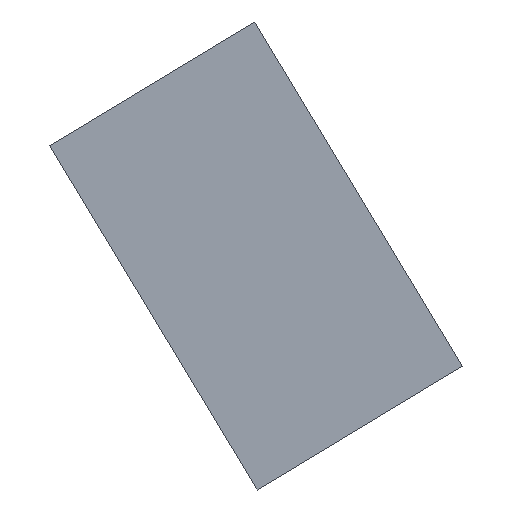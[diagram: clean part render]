
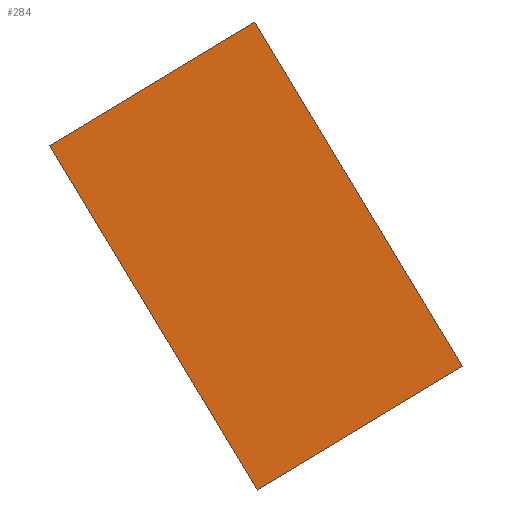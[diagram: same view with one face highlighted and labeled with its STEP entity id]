
A CAD part, left-side view. The second image highlights one B-rep face of the part: STEP entity #284.
In plain terms, the highlighted planar face has unit normal (-1, 0, 0).
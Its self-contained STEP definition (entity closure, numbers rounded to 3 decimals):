
#21 = EDGE_CURVE('',#22,#24,#26,.T.);
#22 = VERTEX_POINT('',#23);
#23 = CARTESIAN_POINT('',(160.,-704.646,1762.911));
#24 = VERTEX_POINT('',#25);
#25 = CARTESIAN_POINT('',(160.,-739.276,1705.554));
#26 = SURFACE_CURVE('',#27,(#31,#43),.PCURVE_S1.);
#27 = LINE('',#28,#29);
#28 = CARTESIAN_POINT('',(160.,-704.646,1762.911));
#29 = VECTOR('',#30,1.);
#30 = DIRECTION('',(0.,-0.517,-0.856));
#31 = PCURVE('',#32,#37);
#32 = PLANE('',#33);
#33 = AXIS2_PLACEMENT_3D('',#34,#35,#36);
#34 = CARTESIAN_POINT('',(160.,-704.646,1762.911));
#35 = DIRECTION('',(0.,-0.856,0.517));
#36 = DIRECTION('',(1.,0.,0.));
#37 = DEFINITIONAL_REPRESENTATION('',(#38),#42);
#38 = LINE('',#39,#40);
#39 = CARTESIAN_POINT('',(0.,0.));
#40 = VECTOR('',#41,1.);
#41 = DIRECTION('',(0.,-1.));
#42 = ( GEOMETRIC_REPRESENTATION_CONTEXT(2) 
PARAMETRIC_REPRESENTATION_CONTEXT() REPRESENTATION_CONTEXT('2D SPACE',''
  ) );
#43 = PCURVE('',#44,#49);
#44 = PLANE('',#45);
#45 = AXIS2_PLACEMENT_3D('',#46,#47,#48);
#46 = CARTESIAN_POINT('',(160.,-738.888,1783.585));
#47 = DIRECTION('',(1.,0.,0.));
#48 = DIRECTION('',(0.,0.856,-0.517));
#49 = DEFINITIONAL_REPRESENTATION('',(#50),#54);
#50 = LINE('',#51,#52);
#51 = CARTESIAN_POINT('',(40.,0.));
#52 = VECTOR('',#53,1.);
#53 = DIRECTION('',(0.,-1.));
#54 = ( GEOMETRIC_REPRESENTATION_CONTEXT(2) 
PARAMETRIC_REPRESENTATION_CONTEXT() REPRESENTATION_CONTEXT('2D SPACE',''
  ) );
#72 = PLANE('',#73);
#73 = AXIS2_PLACEMENT_3D('',#74,#75,#76);
#74 = CARTESIAN_POINT('',(175.,-756.397,1715.892));
#75 = DIRECTION('',(-0.,-0.517,-0.856));
#76 = DIRECTION('',(0.,-0.856,0.517));
#126 = PLANE('',#127);
#127 = AXIS2_PLACEMENT_3D('',#128,#129,#130);
#128 = CARTESIAN_POINT('',(175.,-721.767,1773.248));
#129 = DIRECTION('',(-0.,-0.517,-0.856));
#130 = DIRECTION('',(0.,-0.856,0.517));
#181 = PLANE('',#182);
#182 = AXIS2_PLACEMENT_3D('',#183,#184,#185);
#183 = CARTESIAN_POINT('',(190.,-738.888,1783.585));
#184 = DIRECTION('',(0.,0.856,-0.517));
#185 = DIRECTION('',(-1.,0.,0.));
#219 = VERTEX_POINT('',#220);
#220 = CARTESIAN_POINT('',(160.,-773.519,1726.229));
#241 = EDGE_CURVE('',#242,#219,#244,.T.);
#242 = VERTEX_POINT('',#243);
#243 = CARTESIAN_POINT('',(160.,-738.888,1783.585));
#244 = SURFACE_CURVE('',#245,(#249,#256),.PCURVE_S1.);
#245 = LINE('',#246,#247);
#246 = CARTESIAN_POINT('',(160.,-738.888,1783.585));
#247 = VECTOR('',#248,1.);
#248 = DIRECTION('',(0.,-0.517,-0.856));
#249 = PCURVE('',#181,#250);
#250 = DEFINITIONAL_REPRESENTATION('',(#251),#255);
#251 = LINE('',#252,#253);
#252 = CARTESIAN_POINT('',(30.,0.));
#253 = VECTOR('',#254,1.);
#254 = DIRECTION('',(-0.,-1.));
#255 = ( GEOMETRIC_REPRESENTATION_CONTEXT(2) 
PARAMETRIC_REPRESENTATION_CONTEXT() REPRESENTATION_CONTEXT('2D SPACE',''
  ) );
#256 = PCURVE('',#44,#257);
#257 = DEFINITIONAL_REPRESENTATION('',(#258),#262);
#258 = LINE('',#259,#260);
#259 = CARTESIAN_POINT('',(0.,0.));
#260 = VECTOR('',#261,1.);
#261 = DIRECTION('',(0.,-1.));
#262 = ( GEOMETRIC_REPRESENTATION_CONTEXT(2) 
PARAMETRIC_REPRESENTATION_CONTEXT() REPRESENTATION_CONTEXT('2D SPACE',''
  ) );
#284 = ADVANCED_FACE('',(#285),#44,.F.);
#285 = FACE_BOUND('',#286,.F.);
#286 = EDGE_LOOP('',(#287,#288,#309,#310));
#287 = ORIENTED_EDGE('',*,*,#241,.T.);
#288 = ORIENTED_EDGE('',*,*,#289,.T.);
#289 = EDGE_CURVE('',#219,#24,#290,.T.);
#290 = SURFACE_CURVE('',#291,(#295,#302),.PCURVE_S1.);
#291 = LINE('',#292,#293);
#292 = CARTESIAN_POINT('',(160.,-773.519,1726.229));
#293 = VECTOR('',#294,1.);
#294 = DIRECTION('',(0.,0.856,-0.517));
#295 = PCURVE('',#44,#296);
#296 = DEFINITIONAL_REPRESENTATION('',(#297),#301);
#297 = LINE('',#298,#299);
#298 = CARTESIAN_POINT('',(0.,-67.));
#299 = VECTOR('',#300,1.);
#300 = DIRECTION('',(1.,0.));
#301 = ( GEOMETRIC_REPRESENTATION_CONTEXT(2) 
PARAMETRIC_REPRESENTATION_CONTEXT() REPRESENTATION_CONTEXT('2D SPACE',''
  ) );
#302 = PCURVE('',#72,#303);
#303 = DEFINITIONAL_REPRESENTATION('',(#304),#308);
#304 = LINE('',#305,#306);
#305 = CARTESIAN_POINT('',(20.,15.));
#306 = VECTOR('',#307,1.);
#307 = DIRECTION('',(-1.,0.));
#308 = ( GEOMETRIC_REPRESENTATION_CONTEXT(2) 
PARAMETRIC_REPRESENTATION_CONTEXT() REPRESENTATION_CONTEXT('2D SPACE',''
  ) );
#309 = ORIENTED_EDGE('',*,*,#21,.F.);
#310 = ORIENTED_EDGE('',*,*,#311,.F.);
#311 = EDGE_CURVE('',#242,#22,#312,.T.);
#312 = SURFACE_CURVE('',#313,(#317,#324),.PCURVE_S1.);
#313 = LINE('',#314,#315);
#314 = CARTESIAN_POINT('',(160.,-738.888,1783.585));
#315 = VECTOR('',#316,1.);
#316 = DIRECTION('',(0.,0.856,-0.517));
#317 = PCURVE('',#44,#318);
#318 = DEFINITIONAL_REPRESENTATION('',(#319),#323);
#319 = LINE('',#320,#321);
#320 = CARTESIAN_POINT('',(0.,0.));
#321 = VECTOR('',#322,1.);
#322 = DIRECTION('',(1.,0.));
#323 = ( GEOMETRIC_REPRESENTATION_CONTEXT(2) 
PARAMETRIC_REPRESENTATION_CONTEXT() REPRESENTATION_CONTEXT('2D SPACE',''
  ) );
#324 = PCURVE('',#126,#325);
#325 = DEFINITIONAL_REPRESENTATION('',(#326),#330);
#326 = LINE('',#327,#328);
#327 = CARTESIAN_POINT('',(20.,15.));
#328 = VECTOR('',#329,1.);
#329 = DIRECTION('',(-1.,0.));
#330 = ( GEOMETRIC_REPRESENTATION_CONTEXT(2) 
PARAMETRIC_REPRESENTATION_CONTEXT() REPRESENTATION_CONTEXT('2D SPACE',''
  ) );
